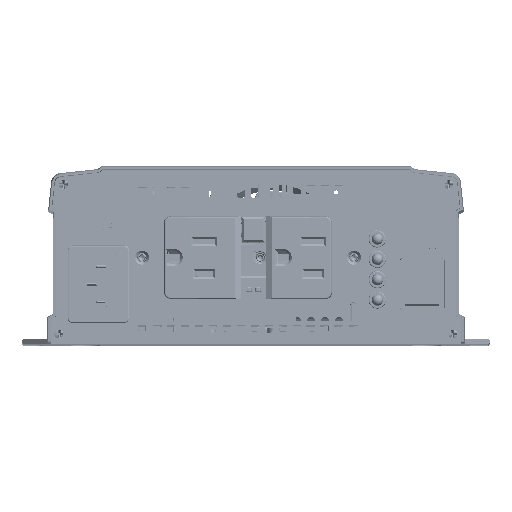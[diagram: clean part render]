
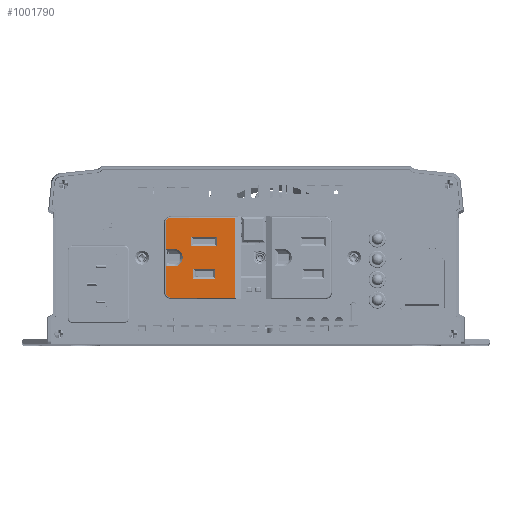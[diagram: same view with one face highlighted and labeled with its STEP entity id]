
A CAD part, top view. The second image highlights one B-rep face of the part: STEP entity #1001790.
In plain terms, the highlighted planar face has unit normal (0, 0, 1) as drawn and (0, 1, 0) by its records, which use the part's own axes.
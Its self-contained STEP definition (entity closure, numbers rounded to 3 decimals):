
#839650=CARTESIAN_POINT('',(-4.906,34.214,15.679))
;
#839660=VERTEX_POINT('',#839650);
#839690=CARTESIAN_POINT('',(-4.906,34.214,-15.679)
);
#839700=DIRECTION('',(0.,0.,1.));
#839710=VECTOR('',#839700,1.);
#839720=LINE('',#839690,#839710);
#839730=CARTESIAN_POINT('',(-4.906,34.214,-15.679)
);
#839740=VERTEX_POINT('',#839730);
#839750=EDGE_CURVE('',#839740,#839660,#839720,.T.);
#1000050=CARTESIAN_POINT('',(-32.38,34.214,
13.597));
#1000060=VERTEX_POINT('',#1000050);
#1000150=CARTESIAN_POINT('',(-32.38,34.214,-13.596
));
#1000160=VERTEX_POINT('',#1000150);
#1000190=CARTESIAN_POINT('',(-32.38,34.214,-13.597
));
#1000200=DIRECTION('',(0.,0.,1.));
#1000210=VECTOR('',#1000200,1.);
#1000220=LINE('',#1000190,#1000210);
#1000230=EDGE_CURVE('',#1000160,#1000060,#1000220,.T.);
#1000280=CARTESIAN_POINT('',(0.,34.214,0.));
#1000290=DIRECTION('',(-0.,1.,0.));
#1000300=DIRECTION('',(1.,0.,0.));
#1000310=AXIS2_PLACEMENT_3D('',#1000280,#1000290,#1000300);
#1000320=PLANE('',#1000310);
#1000330=CARTESIAN_POINT('',(-30.297,34.214,15.679)
);
#1000340=DIRECTION('',(1.,0.,0.));
#1000350=VECTOR('',#1000340,1.);
#1000360=LINE('',#1000330,#1000350);
#1000370=CARTESIAN_POINT('',(-30.297,34.214,15.679)
);
#1000380=VERTEX_POINT('',#1000370);
#1000390=EDGE_CURVE('',#1000380,#839660,#1000360,.T.);
#1000400=ORIENTED_EDGE('',*,*,#1000390,.T.);
#1000410=CARTESIAN_POINT('',(-30.297,34.214,
13.597));
#1000420=DIRECTION('',(0.,-1.,
0.));
#1000430=DIRECTION('',(0.,0.,
1.));
#1000440=AXIS2_PLACEMENT_3D('',#1000410,#1000420,#1000430);
#1000450=CIRCLE('',#1000440,2.082);
#1000460=EDGE_CURVE('',#1000380,#1000060,#1000450,.T.);
#1000470=ORIENTED_EDGE('',*,*,#1000460,.F.);
#1000480=ORIENTED_EDGE('',*,*,#1000230,.T.);
#1000490=CARTESIAN_POINT('',(-30.297,34.214,
-13.597));
#1000500=DIRECTION('',(0.,-1.,
0.));
#1000510=DIRECTION('',(-1.,0.,
0.));
#1000520=AXIS2_PLACEMENT_3D('',#1000490,#1000500,#1000510);
#1000530=CIRCLE('',#1000520,2.082);
#1000540=CARTESIAN_POINT('',(-30.297,34.214,-15.679
));
#1000550=VERTEX_POINT('',#1000540);
#1000560=EDGE_CURVE('',#1000160,#1000550,#1000530,.T.);
#1000570=ORIENTED_EDGE('',*,*,#1000560,.F.);
#1000580=CARTESIAN_POINT('',(-4.906,34.214,-15.679
));
#1000590=DIRECTION('',(-1.,0.,0.));
#1000600=VECTOR('',#1000590,1.);
#1000610=LINE('',#1000580,#1000600);
#1000620=EDGE_CURVE('',#839740,#1000550,#1000610,.T.);
#1000630=ORIENTED_EDGE('',*,*,#1000620,.T.);
#1000640=ORIENTED_EDGE('',*,*,#839750,.F.);
#1000650=EDGE_LOOP('',(#1000640,#1000630,#1000570,#1000480,#1000470,
#1000400));
#1000660=FACE_OUTER_BOUND('',#1000650,.T.);
#1000670=CARTESIAN_POINT('',(-29.096,34.214,3.429));
#1000680=DIRECTION('',(-1.,0.,0.));
#1000690=VECTOR('',#1000680,1.);
#1000700=LINE('',#1000670,#1000690);
#1000710=CARTESIAN_POINT('',(-29.096,34.214,3.429));
#1000720=VERTEX_POINT('',#1000710);
#1000730=CARTESIAN_POINT('',(-32.271,34.214,3.429));
#1000740=VERTEX_POINT('',#1000730);
#1000750=EDGE_CURVE('',#1000720,#1000740,#1000700,.T.);
#1000760=ORIENTED_EDGE('',*,*,#1000750,.T.);
#1000770=CARTESIAN_POINT('',(-29.096,34.214,0.));
#1000780=DIRECTION('',(0.,1.,0.));
#1000790=DIRECTION('',(0.,0.,1.));
#1000800=AXIS2_PLACEMENT_3D('',#1000770,#1000780,#1000790);
#1000810=CIRCLE('',#1000800,3.429);
#1000820=CARTESIAN_POINT('',(-25.667,34.214,0.));
#1000830=VERTEX_POINT('',#1000820);
#1000840=EDGE_CURVE('',#1000720,#1000830,#1000810,.T.);
#1000850=ORIENTED_EDGE('',*,*,#1000840,.F.);
#1000860=CARTESIAN_POINT('',(-29.096,34.214,0.));
#1000870=DIRECTION('',(0.,1.,0.));
#1000880=DIRECTION('',(1.,0.,0.));
#1000890=AXIS2_PLACEMENT_3D('',#1000860,#1000870,#1000880);
#1000900=CIRCLE('',#1000890,3.429);
#1000910=CARTESIAN_POINT('',(-29.096,34.214,-3.429));
#1000920=VERTEX_POINT('',#1000910);
#1000930=EDGE_CURVE('',#1000830,#1000920,#1000900,.T.);
#1000940=ORIENTED_EDGE('',*,*,#1000930,.F.);
#1000950=CARTESIAN_POINT('',(-32.271,34.214,-3.429));
#1000960=DIRECTION('',(1.,0.,0.));
#1000970=VECTOR('',#1000960,1.);
#1000980=LINE('',#1000950,#1000970);
#1000990=CARTESIAN_POINT('',(-32.271,34.214,-3.429));
#1001000=VERTEX_POINT('',#1000990);
#1001010=EDGE_CURVE('',#1001000,#1000920,#1000980,.T.);
#1001020=ORIENTED_EDGE('',*,*,#1001010,.T.);
#1001030=CARTESIAN_POINT('',(-32.271,34.214,3.429));
#1001040=DIRECTION('',(0.,0.,-1.));
#1001050=VECTOR('',#1001040,1.);
#1001060=LINE('',#1001030,#1001050);
#1001070=EDGE_CURVE('',#1000740,#1001000,#1001060,.T.);
#1001080=ORIENTED_EDGE('',*,*,#1001070,.T.);
#1001090=EDGE_LOOP('',(#1001080,#1001020,#1000940,#1000850,#1000760));
#1001100=FACE_BOUND('',#1001090,.T.);
#1001110=CARTESIAN_POINT('',(-12.129,34.214,-4.509));
#1001120=DIRECTION('',(-1.,0.,0.));
#1001130=VECTOR('',#1001120,1.);
#1001140=LINE('',#1001110,#1001130);
#1001150=CARTESIAN_POINT('',(-12.129,34.214,-4.509));
#1001160=VERTEX_POINT('',#1001150);
#1001170=CARTESIAN_POINT('',(-22.289,34.214,-4.509));
#1001180=VERTEX_POINT('',#1001170);
#1001190=EDGE_CURVE('',#1001160,#1001180,#1001140,.T.);
#1001200=ORIENTED_EDGE('',*,*,#1001190,.T.);
#1001210=CARTESIAN_POINT('',(-12.129,34.214,-8.192));
#1001220=DIRECTION('',(0.,0.,1.));
#1001230=VECTOR('',#1001220,1.);
#1001240=LINE('',#1001210,#1001230);
#1001250=CARTESIAN_POINT('',(-12.129,34.214,-8.192));
#1001260=VERTEX_POINT('',#1001250);
#1001270=EDGE_CURVE('',#1001260,#1001160,#1001240,.T.);
#1001280=ORIENTED_EDGE('',*,*,#1001270,.T.);
#1001290=CARTESIAN_POINT('',(-22.289,34.214,-8.192));
#1001300=DIRECTION('',(1.,0.,0.));
#1001310=VECTOR('',#1001300,1.);
#1001320=LINE('',#1001290,#1001310);
#1001330=CARTESIAN_POINT('',(-22.289,34.214,-8.192));
#1001340=VERTEX_POINT('',#1001330);
#1001350=EDGE_CURVE('',#1001340,#1001260,#1001320,.T.);
#1001360=ORIENTED_EDGE('',*,*,#1001350,.T.);
#1001370=CARTESIAN_POINT('',(-22.289,34.214,-4.509));
#1001380=DIRECTION('',(0.,0.,-1.));
#1001390=VECTOR('',#1001380,1.);
#1001400=LINE('',#1001370,#1001390);
#1001410=EDGE_CURVE('',#1001180,#1001340,#1001400,.T.);
#1001420=ORIENTED_EDGE('',*,*,#1001410,.T.);
#1001430=EDGE_LOOP('',(#1001420,#1001360,#1001280,#1001200));
#1001440=FACE_BOUND('',#1001430,.T.);
#1001450=CARTESIAN_POINT('',(-12.954,34.214,8.192));
#1001460=DIRECTION('',(-1.,0.,0.));
#1001470=VECTOR('',#1001460,1.);
#1001480=LINE('',#1001450,#1001470);
#1001490=CARTESIAN_POINT('',(-12.954,34.214,8.192));
#1001500=VERTEX_POINT('',#1001490);
#1001510=CARTESIAN_POINT('',(-21.463,34.214,8.192));
#1001520=VERTEX_POINT('',#1001510);
#1001530=EDGE_CURVE('',#1001500,#1001520,#1001480,.T.);
#1001540=ORIENTED_EDGE('',*,*,#1001530,.T.);
#1001550=CARTESIAN_POINT('',(-12.954,34.214,4.509));
#1001560=DIRECTION('',(0.,0.,1.));
#1001570=VECTOR('',#1001560,1.);
#1001580=LINE('',#1001550,#1001570);
#1001590=CARTESIAN_POINT('',(-12.954,34.214,4.509));
#1001600=VERTEX_POINT('',#1001590);
#1001610=EDGE_CURVE('',#1001600,#1001500,#1001580,.T.);
#1001620=ORIENTED_EDGE('',*,*,#1001610,.T.);
#1001630=CARTESIAN_POINT('',(-21.463,34.214,4.509));
#1001640=DIRECTION('',(1.,0.,0.));
#1001650=VECTOR('',#1001640,1.);
#1001660=LINE('',#1001630,#1001650);
#1001670=CARTESIAN_POINT('',(-21.463,34.214,4.509));
#1001680=VERTEX_POINT('',#1001670);
#1001690=EDGE_CURVE('',#1001680,#1001600,#1001660,.T.);
#1001700=ORIENTED_EDGE('',*,*,#1001690,.T.);
#1001710=CARTESIAN_POINT('',(-21.463,34.214,8.192));
#1001720=DIRECTION('',(0.,0.,-1.));
#1001730=VECTOR('',#1001720,1.);
#1001740=LINE('',#1001710,#1001730);
#1001750=EDGE_CURVE('',#1001520,#1001680,#1001740,.T.);
#1001760=ORIENTED_EDGE('',*,*,#1001750,.T.);
#1001770=EDGE_LOOP('',(#1001760,#1001700,#1001620,#1001540));
#1001780=FACE_BOUND('',#1001770,.T.);
#1001790=ADVANCED_FACE('',(#1000660,#1001100,#1001440,#1001780),#1000320
,.T.);
